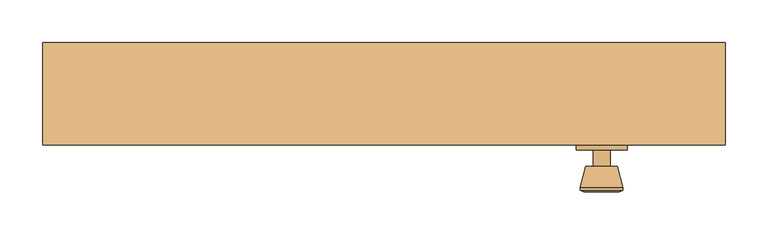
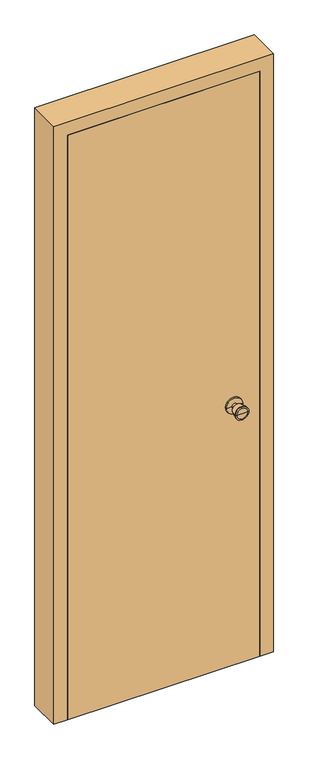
"""IFC4 building model written with IfcOpenShell, lengths in millimetres: door geometry, 單開-矩形- (1) : 80 * 230 cm."""

from ifc_helpers import new_model, si_unit, frame, origin, origin_with_axes, place, context, project, spatial, polyline, circle_curve, outline, extrude, faceted_brep, source, transform, mapped, element, save
from ifc_brep_helpers import plane_surface, cylinder_surface, revolved_surface, advanced_brep


def door_46a0c78e(model_context):
    return source(origin(), model_context, "Body", "SolidModel", [
        advanced_brep(
        [(285.0, 144.0, 1000.0), (225.0, 144.0, 1000.0), (225.0, 150.0, 1000.0), (285.0, 150.0, 1000.0), (265.0, 144.0, 1000.0), (245.0, 144.0, 1000.0), (265.0, 125.0, 1000.0), (245.0, 125.0, 1000.0), (273.6, 125.0, 1000.0), (236.4, 125.0, 1000.0), (280.0, 100.3, 1000.0), (230.0, 100.3, 1000.0), (280.0, 96.8, 1000.0), (230.0, 96.8, 1000.0), (275.5, 95.0, 1000.0), (234.5, 95.0, 1000.0), (255.0, 95.0, 1000.0), (255.0, 150.0, 1000.0)],
        [
            (0, 1, circle_curve(frame((255.0, 144.0, 1000.0), z_axis=(0.0, 1.0, 0.0), x_axis=(-1.0, 0.0, 0.0)), 30.0)),
            (1, 2),
            (2, 3, circle_curve(frame((255.0, 150.0, 1000.0), z_axis=(0.0, -1.0, 0.0), x_axis=(-1.0, 0.0, 0.0)), 30.0)),
            (3, 0),
            (1, 0, circle_curve(frame((255.0, 144.0, 1000.0), z_axis=(0.0, 1.0, 0.0), x_axis=(-1.0, 0.0, 0.0)), 30.0)),
            (3, 2, circle_curve(frame((255.0, 150.0, 1000.0), z_axis=(0.0, -1.0, 0.0), x_axis=(-1.0, 0.0, 0.0)), 30.0)),
            (4, 5, circle_curve(frame((255.0, 144.0, 1000.0), z_axis=(0.0, 1.0, 0.0), x_axis=(-1.0, 0.0, 0.0)), 10.0)),
            (5, 1),
            (0, 4),
            (5, 4, circle_curve(frame((255.0, 144.0, 1000.0), z_axis=(0.0, 1.0, 0.0), x_axis=(-1.0, 0.0, 0.0)), 10.0)),
            (6, 7, circle_curve(frame((255.0, 125.0, 1000.0), z_axis=(0.0, 1.0, 0.0), x_axis=(-1.0, 0.0, 0.0)), 10.0)),
            (7, 5),
            (4, 6),
            (7, 6, circle_curve(frame((255.0, 125.0, 1000.0), z_axis=(0.0, 1.0, 0.0), x_axis=(-1.0, 0.0, 0.0)), 10.0)),
            (8, 9, circle_curve(frame((255.0, 125.0, 1000.0), z_axis=(0.0, 1.0, 0.0), x_axis=(-1.0, 0.0, 0.0)), 18.6)),
            (9, 7),
            (6, 8),
            (9, 8, circle_curve(frame((255.0, 125.0, 1000.0), z_axis=(0.0, 1.0, 0.0), x_axis=(-1.0, 0.0, 0.0)), 18.6)),
            (10, 11, circle_curve(frame((255.0, 100.3, 1000.0), z_axis=(0.0, 1.0, 0.0), x_axis=(-1.0, 0.0, 0.0)), 25.0)),
            (11, 9),
            (8, 10),
            (11, 10, circle_curve(frame((255.0, 100.3, 1000.0), z_axis=(0.0, 1.0, 0.0), x_axis=(-1.0, 0.0, 0.0)), 25.0)),
            (12, 13, circle_curve(frame((255.0, 96.8, 1000.0), z_axis=(0.0, 1.0, 0.0), x_axis=(-1.0, 0.0, 0.0)), 25.0)),
            (13, 11),
            (10, 12),
            (13, 12, circle_curve(frame((255.0, 96.8, 1000.0), z_axis=(0.0, 1.0, 0.0), x_axis=(-1.0, 0.0, 0.0)), 25.0)),
            (14, 15, circle_curve(frame((255.0, 95.0, 1000.0), z_axis=(0.0, 1.0, 0.0), x_axis=(-1.0, 0.0, 0.0)), 20.5)),
            (15, 13),
            (12, 14),
            (15, 14, circle_curve(frame((255.0, 95.0, 1000.0), z_axis=(0.0, 1.0, 0.0), x_axis=(-1.0, 0.0, 0.0)), 20.5)),
            (16, 15),
            (14, 16),
            (2, 17),
            (17, 3),
        ],
        [
            cylinder_surface(frame((255.0, 210.0, 1000.0), z_axis=(0.0, -1.0, 0.0), x_axis=(-1.0, 0.0, 0.0)), 30.0),
            plane_surface(frame((255.0, 144.0, 1000.0), z_axis=(0.0, -1.0, 0.0), x_axis=(-1.0, 0.0, 0.0))),
            cylinder_surface(frame((255.0, 210.0, 1000.0), z_axis=(0.0, -1.0, 0.0), x_axis=(-1.0, 0.0, 0.0)), 10.0),
            plane_surface(frame((255.0, 125.0, 1000.0), z_axis=(0.0, 1.0, 0.0), x_axis=(-1.0, 0.0, 0.0))),
            revolved_surface(polyline([(236.4, 125.0, 1000.0), (230.0, 100.3, 1000.0)]), (255.0, 210.0, 1000.0), (0.0, -1.0, 0.0)),
            cylinder_surface(frame((255.0, 210.0, 1000.0), z_axis=(0.0, -1.0, 0.0), x_axis=(-1.0, 0.0, 0.0)), 25.0),
            revolved_surface(polyline([(230.0, 96.8, 1000.0), (234.5, 95.0, 1000.0)]), (255.0, 210.0, 1000.0), (0.0, -1.0, 0.0)),
            plane_surface(frame((255.0, 95.0, 1000.0), z_axis=(0.0, -1.0, 0.0), x_axis=(-1.0, 0.0, 0.0))),
            plane_surface(frame((255.0, 150.0, 1000.0), z_axis=(0.0, 1.0, 0.0), x_axis=(-1.0, 0.0, 0.0))),
        ],
        [
            (0, [[1, 2, 3, 4]]),
            (0, [[5, -4, 6, -2]]),
            (1, [[7, 8, -1, 9]]),
            (1, [[10, -9, -5, -8]]),
            (2, [[11, 12, -7, 13]]),
            (2, [[14, -13, -10, -12]]),
            (3, [[15, 16, -11, 17]]),
            (3, [[18, -17, -14, -16]]),
            (4, [[19, 20, -15, 21]]),
            (4, [[22, -21, -18, -20]]),
            (5, [[23, 24, -19, 25]]),
            (5, [[26, -25, -22, -24]]),
            (6, [[27, 28, -23, 29]]),
            (6, [[30, -29, -26, -28]]),
            (7, [[31, -27, 32]]),
            (7, [[-32, -30, -31]]),
            (8, [[-3, 33, 34]]),
            (8, [[-6, -34, -33]]),
        ],
    ),
        advanced_brep(
        [(285.0, 196.0, 1000.0), (285.0, 190.0, 1000.0), (225.0, 190.0, 1000.0), (225.0, 196.0, 1000.0), (265.0, 196.0, 1000.0), (245.0, 196.0, 1000.0), (265.0, 215.0, 1000.0), (245.0, 215.0, 1000.0), (273.6, 215.0, 1000.0), (236.4, 215.0, 1000.0), (280.0, 239.7, 1000.0), (230.0, 239.7, 1000.0), (280.0, 243.2, 1000.0), (230.0, 243.2, 1000.0), (275.5, 245.0, 1000.0), (234.5, 245.0, 1000.0), (255.0, 245.0, 1000.0), (255.0, 190.0, 1000.0)],
        [
            (0, 1),
            (1, 2, circle_curve(frame((255.0, 190.0, 1000.0), z_axis=(0.0, 1.0, 0.0), x_axis=(-1.0, 0.0, 0.0)), 30.0)),
            (2, 3),
            (3, 0, circle_curve(frame((255.0, 196.0, 1000.0), z_axis=(0.0, -1.0, 0.0), x_axis=(-1.0, 0.0, 0.0)), 30.0)),
            (2, 1, circle_curve(frame((255.0, 190.0, 1000.0), z_axis=(0.0, 1.0, 0.0), x_axis=(-1.0, 0.0, 0.0)), 30.0)),
            (0, 3, circle_curve(frame((255.0, 196.0, 1000.0), z_axis=(0.0, -1.0, 0.0), x_axis=(-1.0, 0.0, 0.0)), 30.0)),
            (4, 0),
            (3, 5),
            (5, 4, circle_curve(frame((255.0, 196.0, 1000.0), z_axis=(0.0, -1.0, 0.0), x_axis=(-1.0, 0.0, 0.0)), 10.0)),
            (4, 5, circle_curve(frame((255.0, 196.0, 1000.0), z_axis=(0.0, -1.0, 0.0), x_axis=(-1.0, 0.0, 0.0)), 10.0)),
            (6, 4),
            (5, 7),
            (7, 6, circle_curve(frame((255.0, 215.0, 1000.0), z_axis=(0.0, -1.0, 0.0), x_axis=(-1.0, 0.0, 0.0)), 10.0)),
            (6, 7, circle_curve(frame((255.0, 215.0, 1000.0), z_axis=(0.0, -1.0, 0.0), x_axis=(-1.0, 0.0, 0.0)), 10.0)),
            (8, 6),
            (7, 9),
            (9, 8, circle_curve(frame((255.0, 215.0, 1000.0), z_axis=(0.0, -1.0, 0.0), x_axis=(-1.0, 0.0, 0.0)), 18.6)),
            (8, 9, circle_curve(frame((255.0, 215.0, 1000.0), z_axis=(0.0, -1.0, 0.0), x_axis=(-1.0, 0.0, 0.0)), 18.6)),
            (10, 8),
            (9, 11),
            (11, 10, circle_curve(frame((255.0, 239.7, 1000.0), z_axis=(0.0, -1.0, 0.0), x_axis=(-1.0, 0.0, 0.0)), 25.0)),
            (10, 11, circle_curve(frame((255.0, 239.7, 1000.0), z_axis=(0.0, -1.0, 0.0), x_axis=(-1.0, 0.0, 0.0)), 25.0)),
            (12, 10),
            (11, 13),
            (13, 12, circle_curve(frame((255.0, 243.2, 1000.0), z_axis=(0.0, -1.0, 0.0), x_axis=(-1.0, 0.0, 0.0)), 25.0)),
            (12, 13, circle_curve(frame((255.0, 243.2, 1000.0), z_axis=(0.0, -1.0, 0.0), x_axis=(-1.0, 0.0, 0.0)), 25.0)),
            (14, 12),
            (13, 15),
            (15, 14, circle_curve(frame((255.0, 245.0, 1000.0), z_axis=(0.0, -1.0, 0.0), x_axis=(-1.0, 0.0, 0.0)), 20.5)),
            (14, 15, circle_curve(frame((255.0, 245.0, 1000.0), z_axis=(0.0, -1.0, 0.0), x_axis=(-1.0, 0.0, 0.0)), 20.5)),
            (16, 14),
            (15, 16),
            (1, 17),
            (17, 2),
        ],
        [
            cylinder_surface(frame((255.0, 130.0, 1000.0), z_axis=(0.0, 1.0, 0.0), x_axis=(-1.0, 0.0, 0.0)), 30.0),
            plane_surface(frame((255.0, 196.0, 1000.0), z_axis=(0.0, 1.0, 0.0), x_axis=(-1.0, 0.0, 0.0))),
            cylinder_surface(frame((255.0, 130.0, 1000.0), z_axis=(0.0, 1.0, 0.0), x_axis=(-1.0, 0.0, 0.0)), 10.0),
            plane_surface(frame((255.0, 215.0, 1000.0), z_axis=(0.0, -1.0, 0.0), x_axis=(-1.0, 0.0, 0.0))),
            revolved_surface(polyline([(236.4, 215.0, 1000.0), (230.0, 239.7, 1000.0)]), (255.0, 130.0, 1000.0), (0.0, 1.0, 0.0)),
            cylinder_surface(frame((255.0, 130.0, 1000.0), z_axis=(0.0, 1.0, 0.0), x_axis=(-1.0, 0.0, 0.0)), 25.0),
            revolved_surface(polyline([(230.0, 243.2, 1000.0), (234.5, 245.0, 1000.0)]), (255.0, 130.0, 1000.0), (0.0, 1.0, 0.0)),
            plane_surface(frame((255.0, 245.0, 1000.0), z_axis=(0.0, 1.0, 0.0), x_axis=(-1.0, 0.0, 0.0))),
            plane_surface(frame((255.0, 190.0, 1000.0), z_axis=(0.0, -1.0, 0.0), x_axis=(-1.0, 0.0, 0.0))),
        ],
        [
            (0, [[1, 2, 3, 4]]),
            (0, [[-3, 5, -1, 6]]),
            (1, [[7, -4, 8, 9]]),
            (1, [[-8, -6, -7, 10]]),
            (2, [[11, -9, 12, 13]]),
            (2, [[-12, -10, -11, 14]]),
            (3, [[15, -13, 16, 17]]),
            (3, [[-16, -14, -15, 18]]),
            (4, [[19, -17, 20, 21]]),
            (4, [[-20, -18, -19, 22]]),
            (5, [[23, -21, 24, 25]]),
            (5, [[-24, -22, -23, 26]]),
            (6, [[27, -25, 28, 29]]),
            (6, [[-28, -26, -27, 30]]),
            (7, [[31, -29, 32]]),
            (7, [[-32, -30, -31]]),
            (8, [[33, 34, -2]]),
            (8, [[-34, -33, -5]]),
        ],
    ),
        extrude(outline(polyline([(350.0, 190.0), (350.0, 150.0), (-350.0, 150.0), (-350.0, 190.0), (350.0, 190.0)])), origin_with_axes(), (0.0, 0.0, 1.0), 2250.0),
        faceted_brep([(350.0, 150.0, 0.0), (350.0, 190.0, 0.0), (330.0, 190.0, 0.0), (330.0, 270.0, 0.0), (400.0, 270.0, 0.0), (400.0, 150.0, 0.0), (400.0, 150.0, 2300.0), (-400.0, 150.0, 2300.0), (-400.0, 150.0, 0.0), (-350.0, 150.0, 0.0), (-350.0, 150.0, 2250.0), (350.0, 150.0, 2250.0), (400.0, 270.0, 2300.0), (330.0, 270.0, 2230.0), (-330.0, 270.0, 2230.0), (-330.0, 270.0, 0.0), (-400.0, 270.0, 0.0), (-400.0, 270.0, 2300.0), (330.0, 190.0, 2230.0), (350.0, 190.0, 2250.0), (-350.0, 190.0, 2250.0), (-350.0, 190.0, 0.0), (-330.0, 190.0, 0.0), (-330.0, 190.0, 2230.0)], [[[0, 1, 2, 3, 4, 5]], [[5, 6, 7, 8, 9, 10, 11, 0]], [[4, 12, 6, 5]], [[3, 13, 14, 15, 16, 17, 12, 4]], [[2, 18, 13, 3]], [[1, 19, 20, 21, 22, 23, 18, 2]], [[0, 11, 19, 1]], [[12, 17, 7, 6]], [[18, 23, 14, 13]], [[11, 10, 20, 19]], [[9, 8, 16, 15, 22, 21]], [[17, 16, 8, 7]], [[23, 22, 15, 14]], [[10, 9, 21, 20]]]),
    ])


if __name__ == "__main__":
    model = new_model("IFC4")
    model_context = context("Model", 3, world=origin())
    ifc_project = project(units=[si_unit("LENGTHUNIT", "METRE", prefix="MILLI")], contexts=[model_context])
    site = spatial("IfcSite", under=ifc_project)
    building = spatial("IfcBuilding", under=site)
    placement = place(None, origin())
    door_shape = door_46a0c78e(model_context)
    element("IfcDoor", 1, ObjectType="單開-矩形- (1) : 80 * 230 cm", at=placement, inside=building, context=model_context, shape_type="MappedRepresentation", body=[
        mapped(door_shape, transform((0.0, 0.0, 0.0), x_axis=(1.0, 0.0, 0.0), y_axis=(0.0, 1.0, 0.0), z_axis=(0.0, 0.0, 1.0))),
    ])
    save(model, "model.ifc")
